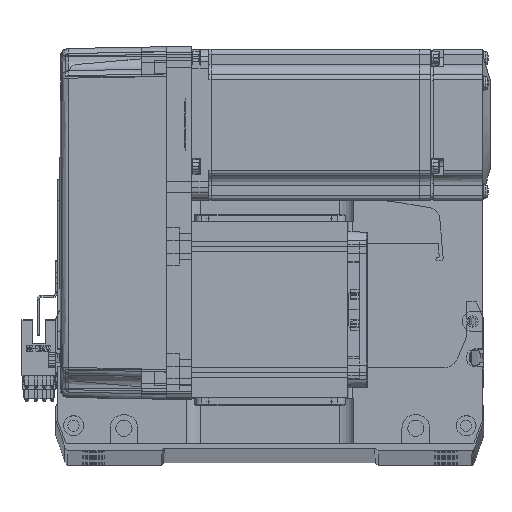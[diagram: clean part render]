
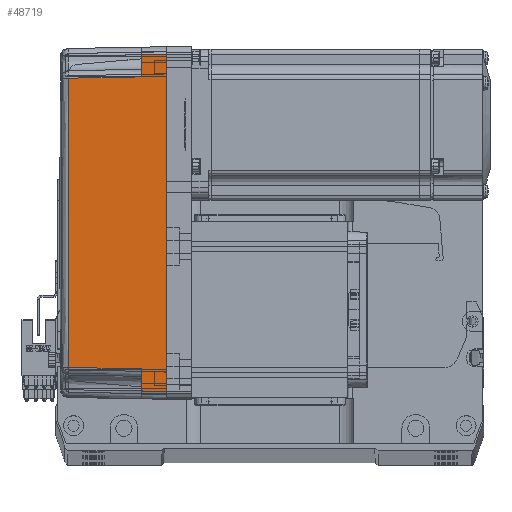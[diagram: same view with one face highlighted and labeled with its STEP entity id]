
A CAD part, top view. The second image highlights one B-rep face of the part: STEP entity #48719.
In plain terms, the highlighted planar face has unit normal (-0.018, 0, 1) as drawn and (0, 1, 0.017) by its records, which use the part's own axes.
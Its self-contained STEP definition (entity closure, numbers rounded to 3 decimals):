
#229 = CARTESIAN_POINT ( 'NONE',  ( 57.495, 35.32, 38.985 ) ) ;
#3165 = CARTESIAN_POINT ( 'NONE',  ( 67., 36., 0. ) ) ;
#3198 = VECTOR ( 'NONE', #22802, 1000. ) ;
#4851 = VECTOR ( 'NONE', #9587, 1000. ) ;
#5700 = LINE ( 'NONE', #18754, #61925 ) ;
#6376 = DIRECTION ( 'NONE',  ( 0., 1., 0.017 ) ) ;
#6617 = ORIENTED_EDGE ( 'NONE', *, *, #62956, .F. ) ;
#9560 = CARTESIAN_POINT ( 'NONE',  ( -19.165, 35.316, 39.181 ) ) ;
#9587 = DIRECTION ( 'NONE',  ( 0.017, -0.017, 1. ) ) ;
#10980 = FACE_OUTER_BOUND ( 'NONE', #38319, .T. ) ;
#11429 = CARTESIAN_POINT ( 'NONE',  ( 67.001, 36.001, -0.052 ) ) ;
#12472 = VERTEX_POINT ( 'NONE', #33036 ) ;
#12626 = VECTOR ( 'NONE', #22901, 1000. ) ;
#14400 = LINE ( 'NONE', #32997, #71512 ) ;
#15541 = ORIENTED_EDGE ( 'NONE', *, *, #60414, .T. ) ;
#16093 = LINE ( 'NONE', #32070, #4851 ) ;
#16973 = LINE ( 'NONE', #41053, #48100 ) ;
#17588 = CARTESIAN_POINT ( 'NONE',  ( 70., 35.825, 10. ) ) ;
#18754 = CARTESIAN_POINT ( 'NONE',  ( 70., 35.825, 10. ) ) ;
#20176 = EDGE_CURVE ( 'NONE', #67282, #52579, #54187, .T. ) ;
#22298 = ORIENTED_EDGE ( 'NONE', *, *, #20176, .T. ) ;
#22802 = DIRECTION ( 'NONE',  ( -0.017, -0.017, 1. ) ) ;
#22901 = DIRECTION ( 'NONE',  ( 1., 0., 0. ) ) ;
#23376 = CARTESIAN_POINT ( 'NONE',  ( 58., 35.825, 10. ) ) ;
#25476 = VERTEX_POINT ( 'NONE', #23376 ) ;
#26771 = CARTESIAN_POINT ( 'NONE',  ( 19.165, 35.316, 39.181 ) ) ;
#28342 = ORIENTED_EDGE ( 'NONE', *, *, #57408, .T. ) ;
#29279 = B_SPLINE_CURVE_WITH_KNOTS ( 'NONE', 3,
 ( #37639, #9560, #26771, #65440 ),
 .UNSPECIFIED., .F., .F.,
 ( 4, 4 ),
 ( 0., 1. ),
 .UNSPECIFIED. ) ;
#29781 = ORIENTED_EDGE ( 'NONE', *, *, #63715, .F. ) ;
#32070 = CARTESIAN_POINT ( 'NONE',  ( -58., 35.825, 10. ) ) ;
#32997 = CARTESIAN_POINT ( 'NONE',  ( -67., 36., 0. ) ) ;
#33036 = CARTESIAN_POINT ( 'NONE',  ( -57.495, 35.32, 38.985 ) ) ;
#35207 = EDGE_CURVE ( 'NONE', #52579, #12472, #16093, .T. ) ;
#35896 = DIRECTION ( 'NONE',  ( 1., 0., 0. ) ) ;
#37639 = CARTESIAN_POINT ( 'NONE',  ( -57.495, 35.32, 38.985 ) ) ;
#37870 = DIRECTION ( 'NONE',  ( 0.017, -0.017, 1. ) ) ;
#38319 = EDGE_LOOP ( 'NONE', ( #66270, #22298, #66726, #28342, #15541, #66793, #6617, #29781 ) ) ;
#39113 = VECTOR ( 'NONE', #71141, 1000. ) ;
#41053 = CARTESIAN_POINT ( 'NONE',  ( 0., 36., 0. ) ) ;
#41894 = AXIS2_PLACEMENT_3D ( 'NONE', #44814, #6376, #66605 ) ;
#42297 = EDGE_CURVE ( 'NONE', #25476, #45301, #5700, .T. ) ;
#44378 = VERTEX_POINT ( 'NONE', #48926 ) ;
#44814 = CARTESIAN_POINT ( 'NONE',  ( 70., 36., 0. ) ) ;
#45301 = VERTEX_POINT ( 'NONE', #54094 ) ;
#47357 = LINE ( 'NONE', #11429, #3198 ) ;
#48100 = VECTOR ( 'NONE', #52221, 1000. ) ;
#48719 = ADVANCED_FACE ( 'NONE', ( #10980 ), #50143, .T. ) ;
#48926 = CARTESIAN_POINT ( 'NONE',  ( -67., 36., 0. ) ) ;
#50143 = PLANE ( 'NONE',  #41894 ) ;
#52221 = DIRECTION ( 'NONE',  ( 1., 0., 0. ) ) ;
#52579 = VERTEX_POINT ( 'NONE', #55887 ) ;
#54094 = CARTESIAN_POINT ( 'NONE',  ( 66.826, 35.825, 10. ) ) ;
#54187 = LINE ( 'NONE', #17588, #12626 ) ;
#55887 = CARTESIAN_POINT ( 'NONE',  ( -58., 35.825, 10. ) ) ;
#56400 = LINE ( 'NONE', #64397, #39113 ) ;
#57408 = EDGE_CURVE ( 'NONE', #12472, #67117, #29279, .T. ) ;
#60414 = EDGE_CURVE ( 'NONE', #67117, #25476, #56400, .T. ) ;
#61925 = VECTOR ( 'NONE', #35896, 1000. ) ;
#62577 = CARTESIAN_POINT ( 'NONE',  ( -66.826, 35.825, 10. ) ) ;
#62956 = EDGE_CURVE ( 'NONE', #64828, #45301, #47357, .T. ) ;
#63715 = EDGE_CURVE ( 'NONE', #44378, #64828, #16973, .T. ) ;
#64397 = CARTESIAN_POINT ( 'NONE',  ( 57.495, 35.32, 38.985 ) ) ;
#64828 = VERTEX_POINT ( 'NONE', #3165 ) ;
#65440 = CARTESIAN_POINT ( 'NONE',  ( 57.495, 35.32, 38.985 ) ) ;
#65935 = EDGE_CURVE ( 'NONE', #44378, #67282, #14400, .T. ) ;
#66270 = ORIENTED_EDGE ( 'NONE', *, *, #65935, .T. ) ;
#66605 = DIRECTION ( 'NONE',  ( 0., -0.017, 1. ) ) ;
#66726 = ORIENTED_EDGE ( 'NONE', *, *, #35207, .T. ) ;
#66793 = ORIENTED_EDGE ( 'NONE', *, *, #42297, .T. ) ;
#67117 = VERTEX_POINT ( 'NONE', #229 ) ;
#67282 = VERTEX_POINT ( 'NONE', #62577 ) ;
#71141 = DIRECTION ( 'NONE',  ( 0.017, 0.017, -1. ) ) ;
#71512 = VECTOR ( 'NONE', #37870, 1000. ) ;
